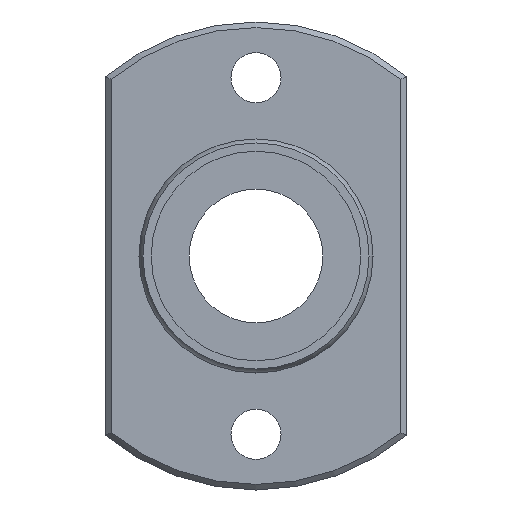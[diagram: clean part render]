
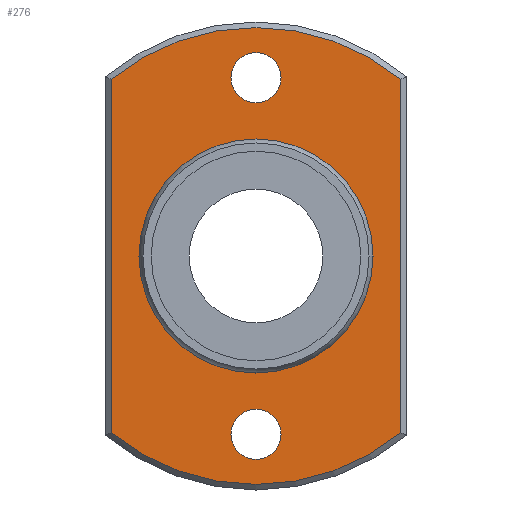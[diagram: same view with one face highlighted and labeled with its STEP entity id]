
A CAD part, left-side view. The second image highlights one B-rep face of the part: STEP entity #276.
In plain terms, the highlighted planar face has unit normal (-1, 0, 0).
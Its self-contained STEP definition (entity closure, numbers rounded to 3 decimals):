
#59=CARTESIAN_POINT('',(6.,13.,-15.851));
#60=VERTEX_POINT('',#59);
#68=CARTESIAN_POINT('',(6.,13.,15.851));
#69=VERTEX_POINT('',#68);
#70=CARTESIAN_POINT('',(6.,13.,-15.851));
#71=DIRECTION('',(0.0,0.0,1.0));
#72=VECTOR('',#71,31.702);
#73=LINE('',#70,#72);
#74=EDGE_CURVE('',#60,#69,#73,.T.);
#101=CARTESIAN_POINT('',(6.,-13.,15.851));
#102=VERTEX_POINT('',#101);
#103=CARTESIAN_POINT('',(6.,0.0,0.0));
#104=DIRECTION('',(1.0,0.0,0.0));
#105=DIRECTION('',(0.0,0.0,1.0));
#106=AXIS2_PLACEMENT_3D('',#103,#104,#105);
#107=CIRCLE('',#106,20.5);
#108=EDGE_CURVE('',#69,#102,#107,.T.);
#134=CARTESIAN_POINT('',(6.,-13.,-15.851));
#135=VERTEX_POINT('',#134);
#136=CARTESIAN_POINT('',(6.,-13.,15.851));
#137=DIRECTION('',(0.0,0.0,-1.0));
#138=VECTOR('',#137,31.702);
#139=LINE('',#136,#138);
#140=EDGE_CURVE('',#102,#135,#139,.T.);
#165=CARTESIAN_POINT('',(6.,0.0,0.0));
#166=DIRECTION('',(1.0,0.0,0.0));
#167=DIRECTION('',(0.0,0.0,-1.0));
#168=AXIS2_PLACEMENT_3D('',#165,#166,#167);
#169=CIRCLE('',#168,20.5);
#170=EDGE_CURVE('',#135,#60,#169,.T.);
#232=CARTESIAN_POINT('',(6.,0.0,15.643));
#233=DIRECTION('',(-1.0,0.0,0.0));
#234=DIRECTION('',(0.0,0.0,1.0));
#235=AXIS2_PLACEMENT_3D('',#232,#233,#234);
#236=PLANE('',#235);
#237=ORIENTED_EDGE('',*,*,#74,.F.);
#238=ORIENTED_EDGE('',*,*,#170,.F.);
#239=ORIENTED_EDGE('',*,*,#140,.F.);
#240=ORIENTED_EDGE('',*,*,#108,.F.);
#241=EDGE_LOOP('',(#237,#238,#239,#240));
#242=FACE_OUTER_BOUND('',#241,.T.);
#243=CARTESIAN_POINT('',(6.,0.0,10.286));
#244=VERTEX_POINT('',#243);
#245=CARTESIAN_POINT('',(6.,0.0,0.0));
#246=DIRECTION('',(-1.0,0.0,0.0));
#247=DIRECTION('',(0.0,0.0,1.0));
#248=AXIS2_PLACEMENT_3D('',#245,#246,#247);
#249=CIRCLE('',#248,10.286);
#250=EDGE_CURVE('',#244,#244,#249,.T.);
#251=ORIENTED_EDGE('',*,*,#250,.F.);
#252=EDGE_LOOP('',(#251));
#253=FACE_BOUND('',#252,.T.);
#254=CARTESIAN_POINT('',(6.,-2.25,-16.0));
#255=VERTEX_POINT('',#254);
#256=CARTESIAN_POINT('',(6.,0.,-16.0));
#257=DIRECTION('',(1.0,0.0,0.0));
#258=DIRECTION('',(0.0,1.0,0.0));
#259=AXIS2_PLACEMENT_3D('',#256,#257,#258);
#260=CIRCLE('',#259,2.25);
#261=EDGE_CURVE('',#255,#255,#260,.T.);
#262=ORIENTED_EDGE('',*,*,#261,.T.);
#263=EDGE_LOOP('',(#262));
#264=FACE_BOUND('',#263,.T.);
#265=CARTESIAN_POINT('',(6.,-2.25,16.0));
#266=VERTEX_POINT('',#265);
#267=CARTESIAN_POINT('',(6.,0.,16.0));
#268=DIRECTION('',(1.0,0.0,0.0));
#269=DIRECTION('',(0.0,1.0,0.0));
#270=AXIS2_PLACEMENT_3D('',#267,#268,#269);
#271=CIRCLE('',#270,2.25);
#272=EDGE_CURVE('',#266,#266,#271,.T.);
#273=ORIENTED_EDGE('',*,*,#272,.T.);
#274=EDGE_LOOP('',(#273));
#275=FACE_BOUND('',#274,.T.);
#276=ADVANCED_FACE('',(#242,#253,#264,#275),#236,.T.);
